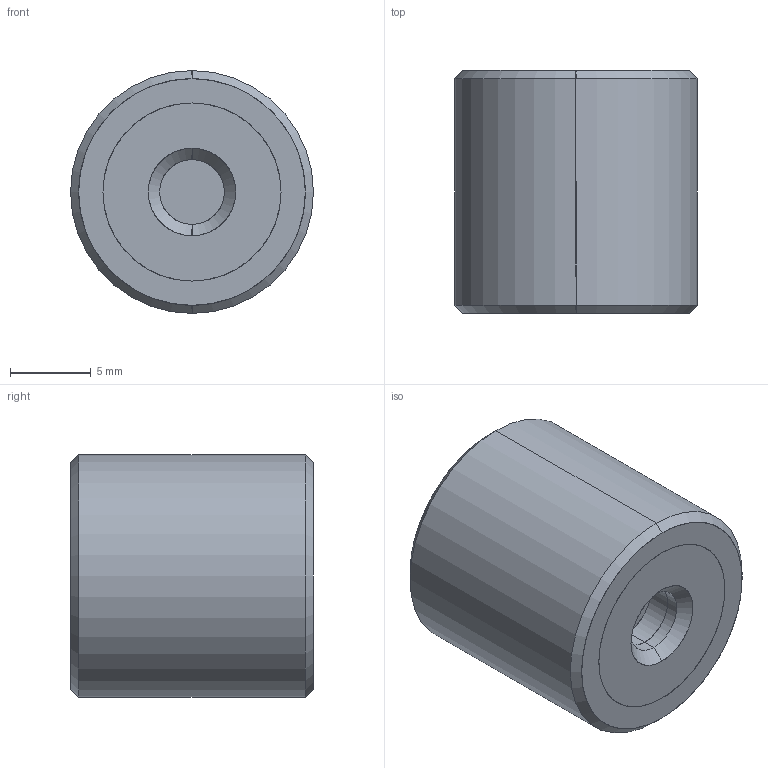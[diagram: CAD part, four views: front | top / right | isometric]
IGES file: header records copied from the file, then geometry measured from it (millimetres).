
Start section: SolidWorks IGES file using analytic representation for surfaces
Global section: file name: E:\WIXROYD 20180701\61080_v2\61080_v2_20180409_IGES\61080.W0151.igs; native system: SolidWorks 2017; preprocessor: SolidWorks 2017; author: liam_; date: 180716.214141; units: millimetre
Bounding box: 15 x 15 x 15 mm (x, y, z)
Surface area: 1635.6 mm2 (no closed solid volume)
Topology: 0 solids, 0 shells, 36 faces, 680 edges, 680 vertices
Faces by surface type: revolution 26, bspline 10
